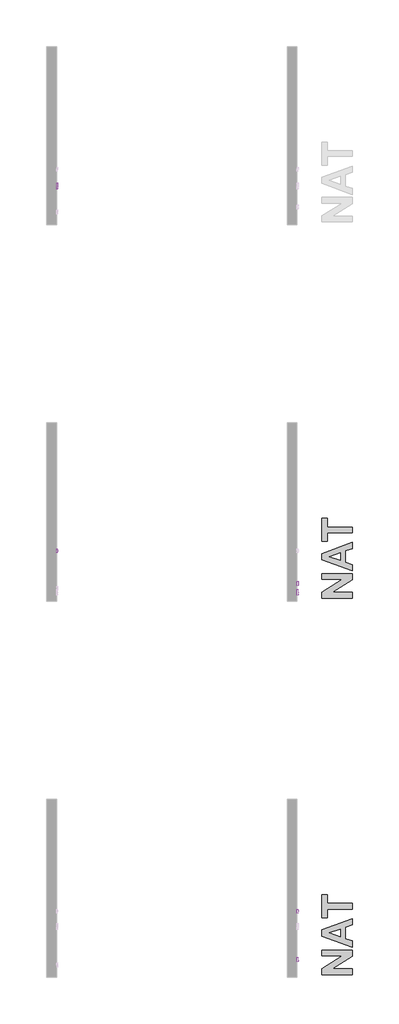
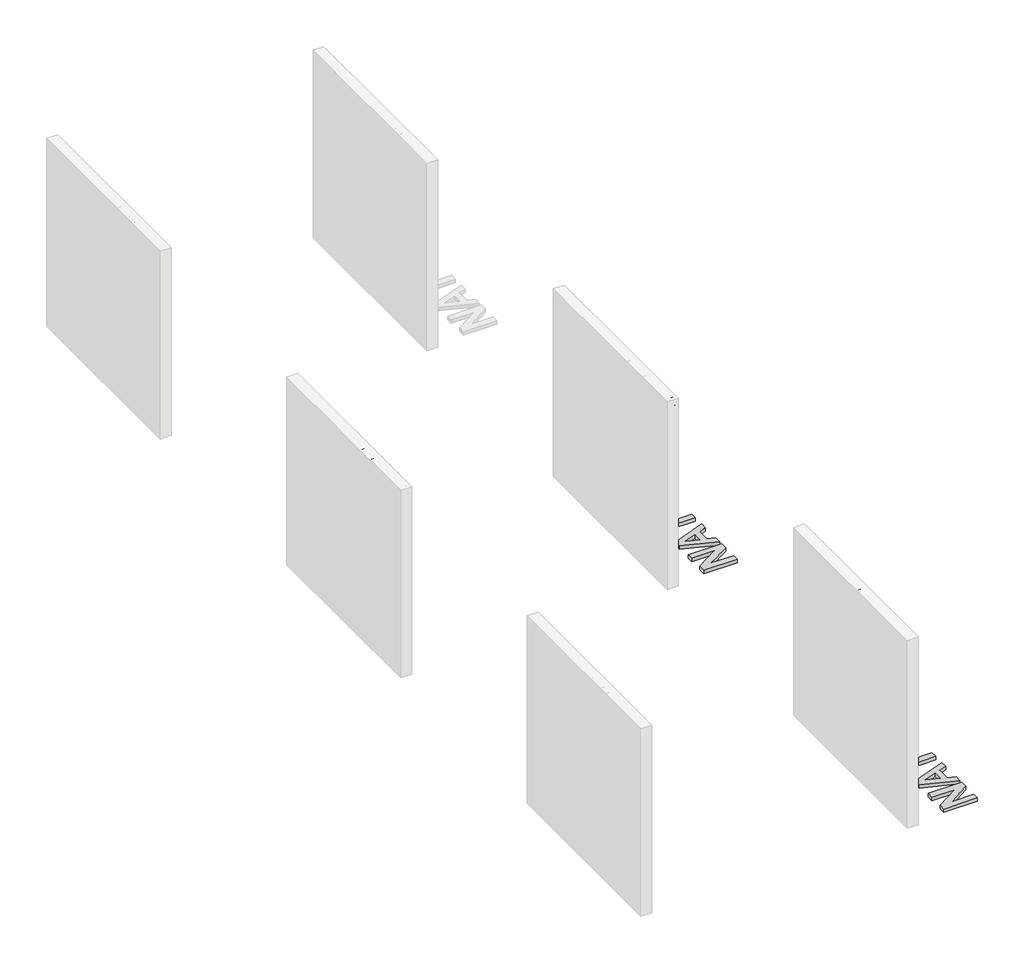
# One storey, part 7 of 9: 8 proxies.
"""IFC4 building model written with IfcOpenShell, lengths in millimetres."""

from ifc_helpers import new_model, si_unit, frame, origin, origin_with_axes, place, context, project, spatial, polyline, outline, extrude, element, save

model = new_model("IFC4")

# Units and contexts
model_context = context("Model", 3, world=origin())
ifc_project = project(units=[si_unit("LENGTHUNIT", "METRE", prefix="MILLI")], contexts=[model_context])

# Site, building, storey
site = spatial("IfcSite", under=ifc_project)
building = spatial("IfcBuilding", under=site)
storey = spatial("IfcBuildingStorey", under=building, Name="PORTOBELLO - SHOWROOM", Elevation=0.0)

# Proxies
placement = place(None, origin())
element("IfcBuildingElementProxy", 1, Name="10mm Arial", ObjectType="10mm Arial", at=placement, inside=storey, context=model_context, shape_type="SweptSolid", body=[
    extrude(outline(polyline([(9524.6681357, 2396.0316064), (9524.6681357, 2383.4745677), (9458.7436821, 2383.4745677), (9460.0925828, 2392.1320573), (9467.7322655, 2405.4616482), (9483.4653522, 2420.0175125), (9505.1336017, 2440.9377353), (9510.5414671, 2455.1625058), (9505.4279073, 2466.6772122), (9492.0737909, 2471.373839), (9478.1555887, 2466.7875768), (9472.8703507, 2454.1079107), (9460.313312, 2455.6775406), (9463.3575355, 2467.8237778), (9469.9395575, 2476.6958652), (9479.7160215, 2482.1221247), (9492.343571, 2483.9308778), (9505.063091, 2481.9197896), (9514.8211609, 2475.8865249), (9521.0291696, 2466.873416), (9523.0985058, 2455.9227952), (9520.8666884, 2444.0156813), (9513.4477348, 2431.7038972), (9495.4583053, 2414.4992826), (9481.0128056, 2402.4204904), (9475.3474228, 2396.0316064), (9524.6681357, 2396.0316064)])), frame((-13466.0063329, 0.0, 0.0), z_axis=(1.0, 0.0, 0.0), x_axis=(0.0, 1.0, 0.0)), (0.0, 0.0, 1.0), 20.0),
    extrude(outline(polyline([(9537.2251744, 2432.8933823), (9540.9162571, 2461.7966444), (9551.8791406, 2478.4616988), (9570.1874012, 2483.9308778), (9584.8536301, 2480.6935163), (9594.9826477, 2471.3615763), (9600.8687596, 2456.4991437), (9603.149628, 2432.8933823), (9599.4953335, 2404.1127476), (9588.5692382, 2387.410905), (9580.3378786, 2383.2814296), (9570.1874012, 2381.9049378), (9557.1398531, 2384.2961708), (9547.2315647, 2391.4698697), (9539.726772, 2408.4598865), (9537.2251744, 2432.8933823)]), holes=[polyline([(9549.7822132, 2432.9179078), (9551.2537412, 2413.1657104), (9555.6683251, 2401.7337774), (9562.2411501, 2396.2799268), (9570.1874012, 2394.4619766), (9578.1336523, 2396.2860581), (9584.7064773, 2401.7583028), (9589.1210612, 2413.1963672), (9590.5925892, 2432.9179078), (9589.1701122, 2452.2255812), (9584.902681, 2463.746419), (9578.3421188, 2469.466984), (9570.0402484, 2471.373839), (9562.1798364, 2469.6938446), (9555.8645289, 2464.6538613), (9551.3027921, 2452.4156536), (9549.7822132, 2432.9179078)])]), frame((-13466.0063329, 0.0, 0.0), z_axis=(1.0, 0.0, 0.0), x_axis=(0.0, 1.0, 0.0)), (0.0, 0.0, 1.0), 20.0),
    extrude(outline(polyline([(9609.4281474, 2383.4745677), (9636.2590075, 2420.5815982), (9610.9977772, 2457.2471704), (9626.0564135, 2457.2471704), (9638.2455703, 2439.5643092), (9643.960004, 2431.2501761), (9648.9141482, 2438.0682557), (9662.7955621, 2457.2471704), (9677.9032494, 2457.2471704), (9651.3666948, 2420.5570728), (9676.9222307, 2383.4745677), (9661.8390689, 2383.4745677), (9646.4370761, 2405.792742), (9643.6411729, 2409.8884949), (9624.5358346, 2383.4745677), (9609.4281474, 2383.4745677)])), frame((-13466.0063329, 0.0, 0.0), z_axis=(1.0, 0.0, 0.0), x_axis=(0.0, 1.0, 0.0)), (0.0, 0.0, 1.0), 20.0),
    extrude(outline(polyline([(9749.1252037, 2396.0316064), (9749.1252037, 2383.4745677), (9683.2007501, 2383.4745677), (9684.5496508, 2392.1320573), (9692.1893335, 2405.4616482), (9707.9224202, 2420.0175125), (9729.5906697, 2440.9377353), (9734.998535, 2455.1625058), (9729.8849753, 2466.6772122), (9716.5308589, 2471.373839), (9702.6126567, 2466.7875768), (9697.3274187, 2454.1079107), (9684.77038, 2455.6775406), (9687.8146035, 2467.8237778), (9694.3966255, 2476.6958652), (9704.1730895, 2482.1221247), (9716.800639, 2483.9308778), (9729.520159, 2481.9197896), (9739.2782289, 2475.8865249), (9745.4862376, 2466.873416), (9747.5555738, 2455.9227952), (9745.3237564, 2444.0156813), (9737.9048028, 2431.7038972), (9719.9153732, 2414.4992826), (9705.4698736, 2402.4204904), (9699.8044908, 2396.0316064), (9749.1252037, 2396.0316064)])), frame((-13466.0063329, 0.0, 0.0), z_axis=(1.0, 0.0, 0.0), x_axis=(0.0, 1.0, 0.0)), (0.0, 0.0, 1.0), 20.0),
    extrude(outline(polyline([(9761.6822424, 2432.8933823), (9765.3733251, 2461.7966444), (9776.3362086, 2478.4616988), (9794.6444692, 2483.9308778), (9809.3106981, 2480.6935163), (9819.4397157, 2471.3615763), (9825.3258276, 2456.4991437), (9827.606696, 2432.8933823), (9823.9524015, 2404.1127476), (9813.0263062, 2387.410905), (9804.7949466, 2383.2814296), (9794.6444692, 2381.9049378), (9781.5969211, 2384.2961708), (9771.6886327, 2391.4698697), (9764.18384, 2408.4598865), (9761.6822424, 2432.8933823)]), holes=[polyline([(9774.2392812, 2432.9179078), (9775.7108092, 2413.1657104), (9780.1253931, 2401.7337774), (9786.6982181, 2396.2799268), (9794.6444692, 2394.4619766), (9802.5907203, 2396.2860581), (9809.1635453, 2401.7583028), (9813.5781292, 2413.1963672), (9815.0496572, 2432.9179078), (9813.6271801, 2452.2255812), (9809.359749, 2463.746419), (9802.7991868, 2469.466984), (9794.4973164, 2471.373839), (9786.6369044, 2469.6938446), (9780.3215968, 2464.6538613), (9775.7598601, 2452.4156536), (9774.2392812, 2432.9179078)])]), frame((-13466.0063329, 0.0, 0.0), z_axis=(1.0, 0.0, 0.0), x_axis=(0.0, 1.0, 0.0)), (0.0, 0.0, 1.0), 20.0),
])
element("IfcBuildingElementProxy", 2, Name="10mm Arial", ObjectType="10mm Arial", at=placement, inside=storey, context=model_context, shape_type="SweptSolid", body=[
    extrude(outline(polyline([(15160.313312, 2567.3783476), (15163.6610381, 2589.5922887), (15173.7042166, 2606.3983645), (15189.0387644, 2616.9749719), (15208.2605987, 2620.5005077), (15221.4369055, 2618.8450387), (15233.2520489, 2613.8786317), (15243.0622354, 2605.9507747), (15250.2236716, 2595.4109556), (15254.6014673, 2582.7680777), (15256.0607326, 2568.5310445), (15254.5248253, 2554.1039389), (15249.9171033, 2541.2832514), (15242.4920183, 2530.7250381), (15232.5040222, 2523.0853553), (15220.7900463, 2518.4500422), (15208.1870223, 2516.9049378), (15194.8083804, 2518.6125234), (15182.9257919, 2523.7352802), (15173.1401309, 2531.81029), (15166.0522711, 2542.3746346), (15160.313312, 2567.3783476)]), holes=[polyline([(15172.8703507, 2567.2557202), (15175.3811454, 2551.5410277), (15182.9135292, 2539.5664687), (15194.2350976, 2531.9880996), (15208.1134459, 2529.4619766), (15222.1941293, 2532.0126251), (15233.5340918, 2539.6645706), (15241.0112933, 2552.0070115), (15243.5036938, 2568.6291463), (15239.2362627, 2589.3531654), (15226.765063, 2603.0751638), (15208.3341751, 2607.9434689), (15194.8267745, 2605.5982212), (15183.3427249, 2598.562478), (15175.4884443, 2586.0452931), (15172.8703507, 2567.2557202)])]), frame((-13466.0063329, 0.0, 0.0), z_axis=(1.0, 0.0, 0.0), x_axis=(0.0, 1.0, 0.0)), (0.0, 0.0, 1.0), 20.0),
    extrude(outline(polyline([(-13446.0063329, 15284.3140698), (-13446.0063329, 15271.7570311), (-13466.0063329, 15271.7570311), (-13466.0063329, 15284.3140698), (-13446.0063329, 15284.3140698)])), frame((0.0, 0.0, 2518.4745677), z_axis=(0.0, 0.0, 1.0), x_axis=(1.0, 0.0, 0.0)), (0.0, 0.0, 1.0), 100.4563101),
    extrude(outline(polyline([(-13446.0063329, 15315.7066667), (-13446.0063329, 15303.149628), (-13466.0063329, 15303.149628), (-13466.0063329, 15315.7066667), (-13446.0063329, 15315.7066667)])), frame((0.0, 0.0, 2518.4745677), z_axis=(0.0, 0.0, 1.0), x_axis=(1.0, 0.0, 0.0)), (0.0, 0.0, 1.0), 73.7726028),
    extrude(outline(polyline([(-13446.0063329, 15315.7066667), (-13446.0063329, 15303.149628), (-13466.0063329, 15303.149628), (-13466.0063329, 15315.7066667), (-13446.0063329, 15315.7066667)])), frame((0.0, 0.0, 2606.373839), z_axis=(0.0, 0.0, 1.0), x_axis=(1.0, 0.0, 0.0)), (0.0, 0.0, 1.0), 12.5570388),
    extrude(outline(polyline([(15352.69107, 2518.4745677), (15326.6940757, 2592.2471704), (15339.962353, 2592.2471704), (15355.7077024, 2548.0522801), (15360.4411174, 2533.1898475), (15365.0764305, 2547.2184142), (15380.8953563, 2592.2471704), (15394.188159, 2592.2471704), (15368.5590467, 2518.4745677), (15352.69107, 2518.4745677)])), frame((-13466.0063329, 0.0, 0.0), z_axis=(1.0, 0.0, 0.0), x_axis=(0.0, 1.0, 0.0)), (0.0, 0.0, 1.0), 20.0),
    extrude(outline(polyline([(15456.8262001, 2540.4493855), (15469.1379842, 2538.8797557), (15464.7019405, 2529.602998), (15457.6232777, 2522.6684224), (15448.0614116, 2518.345809), (15436.1757574, 2516.9049378), (15421.4420835, 2519.391207), (15410.1051867, 2526.8500144), (15402.8763055, 2538.7969822), (15400.4666784, 2554.7477324), (15402.900831, 2571.2349771), (15410.2032886, 2583.5651553), (15421.3869012, 2591.253889), (15435.4645189, 2593.8168003), (15449.1037439, 2591.2600204), (15460.002248, 2583.5896808), (15467.1483557, 2571.2840281), (15469.5303917, 2554.8213088), (15469.4568153, 2551.4367944), (15413.0237172, 2551.4367944), (15415.1972867, 2542.0374095), (15420.246467, 2535.1273593), (15427.5335962, 2530.8783223), (15436.4210121, 2529.4619766), (15448.7327962, 2532.0862015), (15456.8262001, 2540.4493855)]), holes=[polyline([(15413.0237172, 2563.9938332), (15456.9733529, 2563.9938332), (15451.9456323, 2575.3736496), (15444.6247806, 2579.7882335), (15435.415468, 2581.2597615), (15419.9521614, 2576.5631347), (15415.0869221, 2571.0724959), (15413.0237172, 2563.9938332)])]), frame((-13466.0063329, 0.0, 0.0), z_axis=(1.0, 0.0, 0.0), x_axis=(0.0, 1.0, 0.0)), (0.0, 0.0, 1.0), 20.0),
    extrude(outline(polyline([(15522.8978064, 2518.4745677), (15522.8978064, 2618.9308778), (15544.4311659, 2618.9308778), (15565.0325576, 2548.1258565), (15569.2018869, 2533.3370003), (15573.6900472, 2549.3521298), (15593.8990315, 2618.9308778), (15615.5059673, 2618.9308778), (15615.5059673, 2518.4745677), (15602.9489286, 2518.4745677), (15602.9489286, 2606.373839), (15577.7122237, 2518.4745677), (15560.7160755, 2518.4745677), (15535.4548452, 2606.373839), (15535.4548452, 2518.4745677), (15522.8978064, 2518.4745677)])), frame((-13466.0063329, 0.0, 0.0), z_axis=(1.0, 0.0, 0.0), x_axis=(0.0, 1.0, 0.0)), (0.0, 0.0, 1.0), 20.0),
    extrude(outline(polyline([(-13446.0063329, 15648.4681941), (-13446.0063329, 15635.9111553), (-13466.0063329, 15635.9111553), (-13466.0063329, 15648.4681941), (-13446.0063329, 15648.4681941)])), frame((0.0, 0.0, 2518.4745677), z_axis=(0.0, 0.0, 1.0), x_axis=(1.0, 0.0, 0.0)), (0.0, 0.0, 1.0), 73.7726028),
    extrude(outline(polyline([(-13446.0063329, 15648.4681941), (-13446.0063329, 15635.9111553), (-13466.0063329, 15635.9111553), (-13466.0063329, 15648.4681941), (-13446.0063329, 15648.4681941)])), frame((0.0, 0.0, 2606.373839), z_axis=(0.0, 0.0, 1.0), x_axis=(1.0, 0.0, 0.0)), (0.0, 0.0, 1.0), 12.5570388),
    extrude(outline(polyline([(15659.455603, 2518.4745677), (15686.2864632, 2555.5815982), (15661.0252329, 2592.2471704), (15676.0838692, 2592.2471704), (15688.273026, 2574.5643092), (15693.9874596, 2566.2501761), (15698.9416039, 2573.0682557), (15712.8230178, 2592.2471704), (15727.9307051, 2592.2471704), (15701.3941505, 2555.5570728), (15726.9496864, 2518.4745677), (15711.8665246, 2518.4745677), (15696.4645317, 2540.792742), (15693.6686286, 2544.8884949), (15674.5632903, 2518.4745677), (15659.455603, 2518.4745677)])), frame((-13466.0063329, 0.0, 0.0), z_axis=(1.0, 0.0, 0.0), x_axis=(0.0, 1.0, 0.0)), (0.0, 0.0, 1.0), 20.0),
])
element("IfcBuildingElementProxy", 3, Name="10mm Arial", ObjectType="10mm Arial", at=placement, inside=storey, context=model_context, shape_type="SweptSolid", body=[
    extrude(outline(polyline([(15224.6681357, 2396.0316064), (15224.6681357, 2383.4745677), (15158.7436821, 2383.4745677), (15160.0925828, 2392.1320573), (15167.7322655, 2405.4616482), (15183.4653522, 2420.0175125), (15205.1336017, 2440.9377353), (15210.5414671, 2455.1625058), (15205.4279073, 2466.6772122), (15192.0737909, 2471.373839), (15178.1555887, 2466.7875768), (15172.8703507, 2454.1079107), (15160.313312, 2455.6775406), (15163.3575355, 2467.8237778), (15169.9395575, 2476.6958652), (15179.7160215, 2482.1221247), (15192.343571, 2483.9308778), (15205.063091, 2481.9197896), (15214.8211609, 2475.8865249), (15221.0291696, 2466.873416), (15223.0985058, 2455.9227952), (15220.8666884, 2444.0156813), (15213.4477348, 2431.7038972), (15195.4583053, 2414.4992826), (15181.0128056, 2402.4204904), (15175.3474228, 2396.0316064), (15224.6681357, 2396.0316064)])), frame((-13466.0063329, 0.0, 0.0), z_axis=(1.0, 0.0, 0.0), x_axis=(0.0, 1.0, 0.0)), (0.0, 0.0, 1.0), 20.0),
    extrude(outline(polyline([(15237.2251744, 2432.8933823), (15240.9162571, 2461.7966444), (15251.8791406, 2478.4616988), (15270.1874012, 2483.9308778), (15284.8536301, 2480.6935163), (15294.9826477, 2471.3615763), (15300.8687596, 2456.4991437), (15303.149628, 2432.8933823), (15299.4953335, 2404.1127476), (15288.5692382, 2387.410905), (15280.3378786, 2383.2814296), (15270.1874012, 2381.9049378), (15257.1398531, 2384.2961708), (15247.2315647, 2391.4698697), (15239.726772, 2408.4598865), (15237.2251744, 2432.8933823)]), holes=[polyline([(15249.7822132, 2432.9179078), (15251.2537412, 2413.1657104), (15255.6683251, 2401.7337774), (15262.2411501, 2396.2799268), (15270.1874012, 2394.4619766), (15278.1336523, 2396.2860581), (15284.7064773, 2401.7583028), (15289.1210612, 2413.1963672), (15290.5925892, 2432.9179078), (15289.1701122, 2452.2255812), (15284.902681, 2463.746419), (15278.3421188, 2469.466984), (15270.0402484, 2471.373839), (15262.1798364, 2469.6938446), (15255.8645289, 2464.6538613), (15251.3027921, 2452.4156536), (15249.7822132, 2432.9179078)])]), frame((-13466.0063329, 0.0, 0.0), z_axis=(1.0, 0.0, 0.0), x_axis=(0.0, 1.0, 0.0)), (0.0, 0.0, 1.0), 20.0),
    extrude(outline(polyline([(15309.4281474, 2383.4745677), (15336.2590075, 2420.5815982), (15310.9977772, 2457.2471704), (15326.0564135, 2457.2471704), (15338.2455703, 2439.5643092), (15343.960004, 2431.2501761), (15348.9141482, 2438.0682557), (15362.7955621, 2457.2471704), (15377.9032494, 2457.2471704), (15351.3666948, 2420.5570728), (15376.9222307, 2383.4745677), (15361.8390689, 2383.4745677), (15346.4370761, 2405.792742), (15343.6411729, 2409.8884949), (15324.5358346, 2383.4745677), (15309.4281474, 2383.4745677)])), frame((-13466.0063329, 0.0, 0.0), z_axis=(1.0, 0.0, 0.0), x_axis=(0.0, 1.0, 0.0)), (0.0, 0.0, 1.0), 20.0),
    extrude(outline(polyline([(15449.1252037, 2396.0316064), (15449.1252037, 2383.4745677), (15383.2007501, 2383.4745677), (15384.5496508, 2392.1320573), (15392.1893335, 2405.4616482), (15407.9224202, 2420.0175125), (15429.5906697, 2440.9377353), (15434.998535, 2455.1625058), (15429.8849753, 2466.6772122), (15416.5308589, 2471.373839), (15402.6126567, 2466.7875768), (15397.3274187, 2454.1079107), (15384.77038, 2455.6775406), (15387.8146035, 2467.8237778), (15394.3966255, 2476.6958652), (15404.1730895, 2482.1221247), (15416.800639, 2483.9308778), (15429.520159, 2481.9197896), (15439.2782289, 2475.8865249), (15445.4862376, 2466.873416), (15447.5555738, 2455.9227952), (15445.3237564, 2444.0156813), (15437.9048028, 2431.7038972), (15419.9153732, 2414.4992826), (15405.4698736, 2402.4204904), (15399.8044908, 2396.0316064), (15449.1252037, 2396.0316064)])), frame((-13466.0063329, 0.0, 0.0), z_axis=(1.0, 0.0, 0.0), x_axis=(0.0, 1.0, 0.0)), (0.0, 0.0, 1.0), 20.0),
    extrude(outline(polyline([(15461.6822424, 2432.8933823), (15465.3733251, 2461.7966444), (15476.3362086, 2478.4616988), (15494.6444692, 2483.9308778), (15509.3106981, 2480.6935163), (15519.4397157, 2471.3615763), (15525.3258276, 2456.4991437), (15527.606696, 2432.8933823), (15523.9524015, 2404.1127476), (15513.0263062, 2387.410905), (15504.7949466, 2383.2814296), (15494.6444692, 2381.9049378), (15481.5969211, 2384.2961708), (15471.6886327, 2391.4698697), (15464.18384, 2408.4598865), (15461.6822424, 2432.8933823)]), holes=[polyline([(15474.2392812, 2432.9179078), (15475.7108092, 2413.1657104), (15480.1253931, 2401.7337774), (15486.6982181, 2396.2799268), (15494.6444692, 2394.4619766), (15502.5907203, 2396.2860581), (15509.1635453, 2401.7583028), (15513.5781292, 2413.1963672), (15515.0496572, 2432.9179078), (15513.6271801, 2452.2255812), (15509.359749, 2463.746419), (15502.7991868, 2469.466984), (15494.4973164, 2471.373839), (15486.6369044, 2469.6938446), (15480.3215968, 2464.6538613), (15475.7598601, 2452.4156536), (15474.2392812, 2432.9179078)])]), frame((-13466.0063329, 0.0, 0.0), z_axis=(1.0, 0.0, 0.0), x_axis=(0.0, 1.0, 0.0)), (0.0, 0.0, 1.0), 20.0),
])
element("IfcBuildingElementProxy", 4, Name="10mm Arial", ObjectType="10mm Arial", at=placement, inside=storey, context=model_context, shape_type="SweptSolid", body=[
    extrude(outline(polyline([(20935.6555446, 2554.1836467), (20948.2125834, 2550.9462851), (20942.4184419, 2536.3137787), (20933.3256253, 2525.6237411), (20921.3817232, 2519.0846386), (20907.0343254, 2516.9049378), (20892.469264, 2518.5542754), (20880.902441, 2523.5022883), (20872.0364849, 2531.5772981), (20865.5740245, 2542.6076265), (20860.313312, 2569.4630122), (20861.8001684, 2584.110847), (20866.2607376, 2596.7598562), (20873.4620276, 2607.0084355), (20883.1710466, 2614.4549802), (20894.6857531, 2618.9891258), (20907.3041055, 2620.5005077), (20921.0720892, 2618.5446017), (20932.4549712, 2612.6768839), (20941.0971324, 2603.2591048), (20946.6429535, 2590.6530151), (20934.0859147, 2587.6609082), (20923.7852189, 2603.0996893), (20906.8135962, 2607.9434689), (20887.1686976, 2602.5723918), (20876.0709241, 2588.1514175), (20872.8703507, 2569.4875377), (20876.6595353, 2547.8560763), (20888.4562846, 2534.0359761), (20905.7835266, 2529.4619766), (20916.2650978, 2531.0193437), (20924.9992295, 2535.691445), (20931.5935142, 2543.4292297), (20935.6555446, 2554.1836467)])), frame((-17115.5080774, 0.0, 0.0), z_axis=(1.0, 0.0, 0.0), x_axis=(0.0, 1.0, 0.0)), (0.0, 0.0, 1.0), 20.0),
    extrude(outline(polyline([(20960.7696221, 2555.360869), (20963.4858175, 2573.1479635), (20971.6344037, 2585.64982), (20981.7021077, 2591.7750552), (20993.7563744, 2593.8168003), (21006.9480096, 2591.3305311), (21017.4847631, 2583.8717237), (21024.3917475, 2572.0289891), (21026.6940757, 2556.3909386), (21022.6228483, 2534.0482388), (21010.7647853, 2521.4053609), (20993.7563744, 2516.9049378), (20980.4053236, 2519.3820099), (20969.8808329, 2526.8132262), (20963.0474248, 2538.9042811), (20960.7696221, 2555.360869)]), holes=[polyline([(20973.3266609, 2555.3853945), (20974.7797948, 2544.0209065), (20979.1391964, 2535.924437), (20985.6997587, 2531.0775917), (20993.7563744, 2529.4619766), (21001.7762019, 2531.0867887), (21008.3245014, 2535.9612252), (21012.683903, 2544.1649937), (21014.1370369, 2555.777802), (21012.674706, 2566.8111961), (21008.2877132, 2574.7973011), (21001.7302166, 2579.6441464), (20993.7563744, 2581.2597615), (20985.6997587, 2579.6502778), (20979.1391964, 2574.8218266), (20974.7797948, 2566.7437511), (20973.3266609, 2555.3853945)])]), frame((-17115.5080774, 0.0, 0.0), z_axis=(1.0, 0.0, 0.0), x_axis=(0.0, 1.0, 0.0)), (0.0, 0.0, 1.0), 20.0),
    extrude(outline(polyline([(21084.77038, 2518.4745677), (21084.77038, 2579.6901317), (21073.782971, 2579.6901317), (21073.782971, 2592.2471704), (21084.77038, 2592.2471704), (21084.77038, 2599.6783867), (21086.0947552, 2610.1507609), (21092.5204273, 2617.6310281), (21105.175568, 2620.5005077), (21116.6289608, 2619.1270815), (21114.7895508, 2607.3548577), (21107.5545382, 2607.9434689), (21099.6450753, 2605.8588043), (21097.3274187, 2598.0842314), (21097.3274187, 2592.2471704), (21111.4540874, 2592.2471704), (21111.4540874, 2579.6901317), (21097.3274187, 2579.6901317), (21097.3274187, 2518.4745677), (21084.77038, 2518.4745677)])), frame((-17115.5080774, 0.0, 0.0), z_axis=(1.0, 0.0, 0.0), x_axis=(0.0, 1.0, 0.0)), (0.0, 0.0, 1.0), 20.0),
    extrude(outline(polyline([(21043.960004, 2518.4745677), (21043.960004, 2579.6901317), (21032.972595, 2579.6901317), (21032.972595, 2592.2471704), (21043.960004, 2592.2471704), (21043.960004, 2599.6783867), (21045.2843792, 2610.1507609), (21051.7100513, 2617.6310281), (21064.365192, 2620.5005077), (21075.8185848, 2619.1270815), (21073.9791748, 2607.3548577), (21066.7441622, 2607.9434689), (21058.8346993, 2605.8588043), (21056.5170427, 2598.0842314), (21056.5170427, 2592.2471704), (21070.6437114, 2592.2471704), (21070.6437114, 2579.6901317), (21056.5170427, 2579.6901317), (21056.5170427, 2518.4745677), (21043.960004, 2518.4745677)])), frame((-17115.5080774, 0.0, 0.0), z_axis=(1.0, 0.0, 0.0), x_axis=(0.0, 1.0, 0.0)), (0.0, 0.0, 1.0), 20.0),
    extrude(outline(polyline([(21174.0921284, 2540.4493855), (21186.4039125, 2538.8797557), (21181.9678688, 2529.602998), (21174.8892061, 2522.6684224), (21165.3273399, 2518.345809), (21153.4416857, 2516.9049378), (21138.7080118, 2519.391207), (21127.371115, 2526.8500144), (21120.1422338, 2538.7969822), (21117.7326067, 2554.7477324), (21120.1667593, 2571.2349771), (21127.4692169, 2583.5651553), (21138.6528295, 2591.253889), (21152.7304472, 2593.8168003), (21166.3696722, 2591.2600204), (21177.2681763, 2583.5896808), (21184.414284, 2571.2840281), (21186.79632, 2554.8213088), (21186.7227436, 2551.4367944), (21130.2896455, 2551.4367944), (21132.463215, 2542.0374095), (21137.5123953, 2535.1273593), (21144.7995245, 2530.8783223), (21153.6869404, 2529.4619766), (21165.9987245, 2532.0862015), (21174.0921284, 2540.4493855)]), holes=[polyline([(21130.2896455, 2563.9938332), (21174.2392812, 2563.9938332), (21169.2115606, 2575.3736496), (21161.8907089, 2579.7882335), (21152.6813963, 2581.2597615), (21137.2180897, 2576.5631347), (21132.3528504, 2571.0724959), (21130.2896455, 2563.9938332)])]), frame((-17115.5080774, 0.0, 0.0), z_axis=(1.0, 0.0, 0.0), x_axis=(0.0, 1.0, 0.0)), (0.0, 0.0, 1.0), 20.0),
    extrude(outline(polyline([(21251.0039909, 2540.4493855), (21263.315775, 2538.8797557), (21258.8797312, 2529.602998), (21251.8010685, 2522.6684224), (21242.2392023, 2518.345809), (21230.3535482, 2516.9049378), (21215.6198743, 2519.391207), (21204.2829775, 2526.8500144), (21197.0540963, 2538.7969822), (21194.6444692, 2554.7477324), (21197.0786217, 2571.2349771), (21204.3810793, 2583.5651553), (21215.564692, 2591.253889), (21229.6423097, 2593.8168003), (21243.2815346, 2591.2600204), (21254.1800387, 2583.5896808), (21261.3261465, 2571.2840281), (21263.7081824, 2554.8213088), (21263.634606, 2551.4367944), (21207.201508, 2551.4367944), (21209.3750774, 2542.0374095), (21214.4242578, 2535.1273593), (21221.711387, 2530.8783223), (21230.5988029, 2529.4619766), (21242.910587, 2532.0862015), (21251.0039909, 2540.4493855)]), holes=[polyline([(21207.201508, 2563.9938332), (21251.1511437, 2563.9938332), (21246.1234231, 2575.3736496), (21238.8025713, 2579.7882335), (21229.5932587, 2581.2597615), (21214.1299522, 2576.5631347), (21209.2647128, 2571.0724959), (21207.201508, 2563.9938332)])]), frame((-17115.5080774, 0.0, 0.0), z_axis=(1.0, 0.0, 0.0), x_axis=(0.0, 1.0, 0.0)), (0.0, 0.0, 1.0), 20.0),
    extrude(outline(polyline([(21317.0755972, 2518.4745677), (21317.0755972, 2618.9308778), (21338.6089566, 2618.9308778), (21359.2103484, 2548.1258565), (21363.3796776, 2533.3370003), (21367.867838, 2549.3521298), (21388.0768223, 2618.9308778), (21409.6837581, 2618.9308778), (21409.6837581, 2518.4745677), (21397.1267193, 2518.4745677), (21397.1267193, 2606.373839), (21371.8900145, 2518.4745677), (21354.8938663, 2518.4745677), (21329.632636, 2606.373839), (21329.632636, 2518.4745677), (21317.0755972, 2518.4745677)])), frame((-17115.5080774, 0.0, 0.0), z_axis=(1.0, 0.0, 0.0), x_axis=(0.0, 1.0, 0.0)), (0.0, 0.0, 1.0), 20.0),
    extrude(outline(polyline([(-17095.5080774, 21442.6459849), (-17095.5080774, 21430.0889461), (-17115.5080774, 21430.0889461), (-17115.5080774, 21442.6459849), (-17095.5080774, 21442.6459849)])), frame((0.0, 0.0, 2606.373839), z_axis=(0.0, 0.0, 1.0), x_axis=(1.0, 0.0, 0.0)), (0.0, 0.0, 1.0), 12.5570388),
    extrude(outline(polyline([(-17095.5080774, 21442.6459849), (-17095.5080774, 21430.0889461), (-17115.5080774, 21430.0889461), (-17115.5080774, 21442.6459849), (-17095.5080774, 21442.6459849)])), frame((0.0, 0.0, 2518.4745677), z_axis=(0.0, 0.0, 1.0), x_axis=(1.0, 0.0, 0.0)), (0.0, 0.0, 1.0), 73.7726028),
    extrude(outline(polyline([(21453.6333938, 2518.4745677), (21480.464254, 2555.5815982), (21455.2030236, 2592.2471704), (21470.26166, 2592.2471704), (21482.4508168, 2574.5643092), (21488.1652504, 2566.2501761), (21493.1193946, 2573.0682557), (21507.0008086, 2592.2471704), (21522.1084958, 2592.2471704), (21495.5719412, 2555.5570728), (21521.1274772, 2518.4745677), (21506.0443154, 2518.4745677), (21490.6423225, 2540.792742), (21487.8464194, 2544.8884949), (21468.7410811, 2518.4745677), (21453.6333938, 2518.4745677)])), frame((-17115.5080774, 0.0, 0.0), z_axis=(1.0, 0.0, 0.0), x_axis=(0.0, 1.0, 0.0)), (0.0, 0.0, 1.0), 20.0),
])
element("IfcBuildingElementProxy", 5, Name="10mm Arial Narrow", ObjectType="10mm Arial Narrow", at=placement, inside=storey, context=model_context, shape_type="SweptSolid", body=[
    extrude(outline(polyline([(10346.9277964, 2518.4745677), (10346.9277964, 2615.7916181), (10377.1676964, 2615.7916181), (10392.9130458, 2613.9767336), (10403.9985566, 2604.8164719), (10408.1433604, 2588.3721467), (10406.4173807, 2576.7041561), (10401.2394416, 2567.402873), (10391.8247282, 2561.314426), (10377.3884256, 2559.2849437), (10356.3455754, 2559.2849437), (10356.3455754, 2518.4745677), (10346.9277964, 2518.4745677)]), holes=[polyline([(10356.3455754, 2570.2723526), (10378.5411225, 2570.2723526), (10393.869539, 2574.6501483), (10398.7255813, 2587.857112), (10396.3343483, 2597.6795612), (10390.558601, 2603.2836303), (10378.3203933, 2604.8042092), (10356.3455754, 2604.8042092), (10356.3455754, 2570.2723526)])]), frame((-13466.0063329, 0.0, 0.0), z_axis=(1.0, 0.0, 0.0), x_axis=(0.0, 1.0, 0.0)), (0.0, 0.0, 1.0), 20.0),
    extrude(outline(polyline([(10415.9915096, 2553.7912392), (10417.8799705, 2569.8216971), (10423.5453532, 2581.3701261), (10432.104741, 2588.350687), (10442.675217, 2590.6775406), (10453.1230656, 2588.350687), (10461.7069789, 2581.3701261), (10467.445938, 2570.0056381), (10469.3589244, 2554.5270032), (10467.4796605, 2537.9447223), (10461.8418689, 2526.2123523), (10453.2916782, 2519.2317914), (10442.675217, 2516.9049378), (10432.1813831, 2519.2379228), (10423.6066669, 2526.2368778), (10417.8952989, 2537.7914381), (10415.9915096, 2553.7912392)]), holes=[polyline([(10425.4092887, 2553.8157647), (10426.6692845, 2541.6879216), (10430.449272, 2533.1162711), (10436.093195, 2528.0211054), (10442.9449971, 2526.3227169), (10449.4381143, 2528.0364339), (10454.9379502, 2533.1775847), (10458.6903465, 2541.7645636), (10459.9411453, 2553.8157647), (10458.6811495, 2565.9068196), (10454.901162, 2574.4662073), (10449.257239, 2579.561373), (10442.4054369, 2581.2597615), (10435.8663344, 2579.5521759), (10430.3756956, 2574.4294191), (10426.6508904, 2565.8608343), (10425.4092887, 2553.8157647)])]), frame((-13466.0063329, 0.0, 0.0), z_axis=(1.0, 0.0, 0.0), x_axis=(0.0, 1.0, 0.0)), (0.0, 0.0, 1.0), 20.0),
    extrude(outline(polyline([(10538.4226376, 2526.3227169), (10539.9922674, 2516.9049378), (10532.8798822, 2516.9049378), (10524.8845802, 2518.9528143), (10520.7152509, 2524.5568833), (10519.5870794, 2538.7080774), (10519.5870794, 2579.6901317), (10511.7389302, 2579.6901317), (10511.7389302, 2582.8293914), (10510.1693004, 2578.1205018), (10502.8607114, 2579.6901317), (10496.9868622, 2577.4460515), (10493.2467286, 2571.1797948), (10491.3337422, 2556.2928368), (10491.3337422, 2518.4745677), (10481.9159631, 2518.4745677), (10481.9159631, 2589.1079107), (10491.3337422, 2589.1079107), (10491.3337422, 2579.7391826), (10497.3670069, 2588.5192995), (10503.5474244, 2590.6775406), (10511.7389302, 2589.1079107), (10519.5870794, 2589.1079107), (10519.5870794, 2604.8042092), (10529.0048585, 2612.6523584), (10529.0048585, 2589.1079107), (10538.4226376, 2589.1079107), (10538.4226376, 2579.6901317), (10529.0048585, 2579.6901317), (10529.0048585, 2536.5498364), (10529.8387244, 2528.8243145), (10534.3023592, 2526.3227169), (10538.4226376, 2526.3227169)])), frame((-13466.0063329, 0.0, 0.0), z_axis=(1.0, 0.0, 0.0), x_axis=(0.0, 1.0, 0.0)), (0.0, 0.0, 1.0), 20.0),
    extrude(outline(polyline([(10544.701157, 2553.7912392), (10546.5896179, 2569.8216971), (10552.2550006, 2581.3701261), (10560.8143884, 2588.350687), (10571.3848644, 2590.6775406), (10581.832713, 2588.350687), (10590.4166262, 2581.3701261), (10596.1555854, 2570.0056381), (10598.0685717, 2554.5270032), (10596.1893079, 2537.9447223), (10590.5515163, 2526.2123523), (10582.0013256, 2519.2317914), (10571.3848644, 2516.9049378), (10560.8910304, 2519.2379228), (10552.3163143, 2526.2368778), (10546.6049463, 2537.7914381), (10544.701157, 2553.7912392)]), holes=[polyline([(10554.1189361, 2553.8157647), (10555.3789319, 2541.6879216), (10559.1589194, 2533.1162711), (10564.8028423, 2528.0211054), (10571.6546445, 2526.3227169), (10578.1477617, 2528.0364339), (10583.6475975, 2533.1775847), (10587.3999939, 2541.7645636), (10588.6507927, 2553.8157647), (10587.3907968, 2565.9068196), (10583.6108093, 2574.4662073), (10577.9668864, 2579.561373), (10571.1150842, 2581.2597615), (10564.5759818, 2579.5521759), (10559.085343, 2574.4294191), (10555.3605378, 2565.8608343), (10554.1189361, 2553.8157647)])]), frame((-13466.0063329, 0.0, 0.0), z_axis=(1.0, 0.0, 0.0), x_axis=(0.0, 1.0, 0.0)), (0.0, 0.0, 1.0), 20.0),
    extrude(outline(polyline([(10620.0433896, 2518.4745677), (10610.6256105, 2518.4745677), (10610.6256105, 2615.7916181), (10620.0433896, 2615.7916181), (10620.0433896, 2581.5785926), (10627.192563, 2588.4211977), (10636.0830446, 2590.6775406), (10648.5297187, 2586.6185759), (10657.4937767, 2574.3190545), (10660.8537656, 2554.3307995), (10658.9867645, 2538.4321659), (10653.3857611, 2526.641548), (10645.2954229, 2519.3390904), (10635.9604172, 2516.9049378), (10626.9350456, 2519.4310609), (10620.0433896, 2526.9358536), (10620.0433896, 2518.4745677)]), holes=[polyline([(10620.0433896, 2554.3307995), (10622.0544778, 2537.6657451), (10627.744386, 2529.2289847), (10635.9113663, 2526.3227169), (10641.6533911, 2528.0517623), (10646.7148342, 2533.2388984), (10651.4359865, 2553.938392), (10646.8865125, 2574.6501483), (10641.818938, 2579.6073582), (10635.7151626, 2581.2597615), (10629.9394153, 2579.5307161), (10624.8258555, 2574.34358), (10620.0433896, 2554.3307995)])]), frame((-13466.0063329, 0.0, 0.0), z_axis=(1.0, 0.0, 0.0), x_axis=(0.0, 1.0, 0.0)), (0.0, 0.0, 1.0), 20.0),
    extrude(outline(polyline([(10711.0819207, 2540.4493855), (10720.4996997, 2538.8797557), (10711.3026499, 2522.4476932), (10694.8215365, 2516.9049378), (10683.6195297, 2519.2379228), (10674.7842305, 2526.2368778), (10669.0452713, 2537.6442853), (10667.132285, 2553.202628), (10669.0544684, 2569.3066623), (10674.8210187, 2581.0758205), (10683.5306249, 2588.2771106), (10694.2819762, 2590.6775406), (10704.6041319, 2588.359884), (10713.0562207, 2581.4069143), (10718.6940123, 2570.0638861), (10720.5732761, 2554.5760541), (10720.4996997, 2551.4367944), (10676.550064, 2551.4367944), (10682.3503368, 2532.6502872), (10688.0800989, 2527.9046095), (10694.9441638, 2526.3227169), (10704.7788758, 2529.854384), (10711.0819207, 2540.4493855)]), holes=[polyline([(10677.1877262, 2560.8545735), (10711.0819207, 2560.8545735), (10706.9616423, 2574.6378856), (10701.3330478, 2579.6042925), (10694.3555526, 2581.2597615), (10682.5588033, 2575.7415316), (10677.1877262, 2560.8545735)])]), frame((-13466.0063329, 0.0, 0.0), z_axis=(1.0, 0.0, 0.0), x_axis=(0.0, 1.0, 0.0)), (0.0, 0.0, 1.0), 20.0),
    extrude(outline(polyline([(-13446.0063329, 10742.4745176), (-13446.0063329, 10733.0567385), (-13466.0063329, 10733.0567385), (-13466.0063329, 10742.4745176), (-13446.0063329, 10742.4745176)])), frame((0.0, 0.0, 2518.4745677), z_axis=(0.0, 0.0, 1.0), x_axis=(1.0, 0.0, 0.0)), (0.0, 0.0, 1.0), 97.3170505),
    extrude(outline(polyline([(-13446.0063329, 10767.5885951), (-13446.0063329, 10758.170816), (-13466.0063329, 10758.170816), (-13466.0063329, 10767.5885951), (-13446.0063329, 10767.5885951)])), frame((0.0, 0.0, 2518.4745677), z_axis=(0.0, 0.0, 1.0), x_axis=(1.0, 0.0, 0.0)), (0.0, 0.0, 1.0), 97.3170505),
    extrude(outline(polyline([(10778.576004, 2553.7912392), (10780.464465, 2569.8216971), (10786.1298477, 2581.3701261), (10794.6892354, 2588.350687), (10805.2597114, 2590.6775406), (10815.7075601, 2588.350687), (10824.2914733, 2581.3701261), (10830.0304324, 2570.0056381), (10831.9434188, 2554.5270032), (10830.064155, 2537.9447223), (10824.4263634, 2526.2123523), (10815.8761727, 2519.2317914), (10805.2597114, 2516.9049378), (10794.7658775, 2519.2379228), (10786.1911613, 2526.2368778), (10780.4797934, 2537.7914381), (10778.576004, 2553.7912392)]), holes=[polyline([(10787.9937831, 2553.8157647), (10789.253779, 2541.6879216), (10793.0337665, 2533.1162711), (10798.6776894, 2528.0211054), (10805.5294916, 2526.3227169), (10812.0226088, 2528.0364339), (10817.5224446, 2533.1775847), (10821.274841, 2541.7645636), (10822.5256397, 2553.8157647), (10821.2656439, 2565.9068196), (10817.4856564, 2574.4662073), (10811.8417335, 2579.561373), (10804.9899313, 2581.2597615), (10798.4508288, 2579.5521759), (10792.9601901, 2574.4294191), (10789.2353849, 2565.8608343), (10787.9937831, 2553.8157647)])]), frame((-13466.0063329, 0.0, 0.0), z_axis=(1.0, 0.0, 0.0), x_axis=(0.0, 1.0, 0.0)), (0.0, 0.0, 1.0), 20.0),
])
element("IfcBuildingElementProxy", 6, Name="10mm Arial Narrow", ObjectType="10mm Arial Narrow", at=placement, inside=storey, context=model_context, shape_type="SweptSolid", body=[
    extrude(outline(polyline([(15806.9277964, 2518.4745677), (15806.9277964, 2615.7916181), (15837.1676964, 2615.7916181), (15852.9130458, 2613.9767336), (15863.9985566, 2604.8164719), (15868.1433604, 2588.3721467), (15866.4173807, 2576.7041561), (15861.2394416, 2567.402873), (15851.8247282, 2561.314426), (15837.3884256, 2559.2849437), (15816.3455754, 2559.2849437), (15816.3455754, 2518.4745677), (15806.9277964, 2518.4745677)]), holes=[polyline([(15816.3455754, 2570.2723526), (15838.5411225, 2570.2723526), (15853.869539, 2574.6501483), (15858.7255813, 2587.857112), (15856.3343483, 2597.6795612), (15850.558601, 2603.2836303), (15838.3203933, 2604.8042092), (15816.3455754, 2604.8042092), (15816.3455754, 2570.2723526)])]), frame((-17115.5080774, 0.0, 0.0), z_axis=(1.0, 0.0, 0.0), x_axis=(0.0, 1.0, 0.0)), (0.0, 0.0, 1.0), 20.0),
    extrude(outline(polyline([(15875.9915096, 2553.7912392), (15877.8799705, 2569.8216971), (15883.5453532, 2581.3701261), (15892.104741, 2588.350687), (15902.675217, 2590.6775406), (15913.1230656, 2588.350687), (15921.7069789, 2581.3701261), (15927.445938, 2570.0056381), (15929.3589244, 2554.5270032), (15927.4796605, 2537.9447223), (15921.8418689, 2526.2123523), (15913.2916782, 2519.2317914), (15902.675217, 2516.9049378), (15892.1813831, 2519.2379228), (15883.6066669, 2526.2368778), (15877.8952989, 2537.7914381), (15875.9915096, 2553.7912392)]), holes=[polyline([(15885.4092887, 2553.8157647), (15886.6692845, 2541.6879216), (15890.449272, 2533.1162711), (15896.093195, 2528.0211054), (15902.9449971, 2526.3227169), (15909.4381143, 2528.0364339), (15914.9379502, 2533.1775847), (15918.6903465, 2541.7645636), (15919.9411453, 2553.8157647), (15918.6811495, 2565.9068196), (15914.901162, 2574.4662073), (15909.257239, 2579.561373), (15902.4054369, 2581.2597615), (15895.8663344, 2579.5521759), (15890.3756956, 2574.4294191), (15886.6508904, 2565.8608343), (15885.4092887, 2553.8157647)])]), frame((-17115.5080774, 0.0, 0.0), z_axis=(1.0, 0.0, 0.0), x_axis=(0.0, 1.0, 0.0)), (0.0, 0.0, 1.0), 20.0),
    extrude(outline(polyline([(15998.4226376, 2526.3227169), (15999.9922674, 2516.9049378), (15992.8798822, 2516.9049378), (15984.8845802, 2518.9528143), (15980.7152509, 2524.5568833), (15979.5870794, 2538.7080774), (15979.5870794, 2579.6901317), (15971.7389302, 2579.6901317), (15971.7389302, 2582.8293914), (15970.1693004, 2578.1205018), (15962.8607114, 2579.6901317), (15956.9868622, 2577.4460515), (15953.2467286, 2571.1797948), (15951.3337422, 2556.2928368), (15951.3337422, 2518.4745677), (15941.9159631, 2518.4745677), (15941.9159631, 2589.1079107), (15951.3337422, 2589.1079107), (15951.3337422, 2579.7391826), (15957.3670069, 2588.5192995), (15963.5474244, 2590.6775406), (15971.7389302, 2589.1079107), (15979.5870794, 2589.1079107), (15979.5870794, 2604.8042092), (15989.0048585, 2612.6523584), (15989.0048585, 2589.1079107), (15998.4226376, 2589.1079107), (15998.4226376, 2579.6901317), (15989.0048585, 2579.6901317), (15989.0048585, 2536.5498364), (15989.8387244, 2528.8243145), (15994.3023592, 2526.3227169), (15998.4226376, 2526.3227169)])), frame((-17115.5080774, 0.0, 0.0), z_axis=(1.0, 0.0, 0.0), x_axis=(0.0, 1.0, 0.0)), (0.0, 0.0, 1.0), 20.0),
    extrude(outline(polyline([(16004.701157, 2553.7912392), (16006.5896179, 2569.8216971), (16012.2550006, 2581.3701261), (16020.8143884, 2588.350687), (16031.3848644, 2590.6775406), (16041.832713, 2588.350687), (16050.4166262, 2581.3701261), (16056.1555854, 2570.0056381), (16058.0685717, 2554.5270032), (16056.1893079, 2537.9447223), (16050.5515163, 2526.2123523), (16042.0013256, 2519.2317914), (16031.3848644, 2516.9049378), (16020.8910304, 2519.2379228), (16012.3163143, 2526.2368778), (16006.6049463, 2537.7914381), (16004.701157, 2553.7912392)]), holes=[polyline([(16014.1189361, 2553.8157647), (16015.3789319, 2541.6879216), (16019.1589194, 2533.1162711), (16024.8028423, 2528.0211054), (16031.6546445, 2526.3227169), (16038.1477617, 2528.0364339), (16043.6475975, 2533.1775847), (16047.3999939, 2541.7645636), (16048.6507927, 2553.8157647), (16047.3907968, 2565.9068196), (16043.6108093, 2574.4662073), (16037.9668864, 2579.561373), (16031.1150842, 2581.2597615), (16024.5759818, 2579.5521759), (16019.085343, 2574.4294191), (16015.3605378, 2565.8608343), (16014.1189361, 2553.8157647)])]), frame((-17115.5080774, 0.0, 0.0), z_axis=(1.0, 0.0, 0.0), x_axis=(0.0, 1.0, 0.0)), (0.0, 0.0, 1.0), 20.0),
    extrude(outline(polyline([(16080.0433896, 2518.4745677), (16070.6256105, 2518.4745677), (16070.6256105, 2615.7916181), (16080.0433896, 2615.7916181), (16080.0433896, 2581.5785926), (16087.192563, 2588.4211977), (16096.0830446, 2590.6775406), (16108.5297187, 2586.6185759), (16117.4937767, 2574.3190545), (16120.8537656, 2554.3307995), (16118.9867645, 2538.4321659), (16113.3857611, 2526.641548), (16105.2954229, 2519.3390904), (16095.9604172, 2516.9049378), (16086.9350456, 2519.4310609), (16080.0433896, 2526.9358536), (16080.0433896, 2518.4745677)]), holes=[polyline([(16080.0433896, 2554.3307995), (16082.0544778, 2537.6657451), (16087.744386, 2529.2289847), (16095.9113663, 2526.3227169), (16101.6533911, 2528.0517623), (16106.7148342, 2533.2388984), (16111.4359865, 2553.938392), (16106.8865125, 2574.6501483), (16101.818938, 2579.6073582), (16095.7151626, 2581.2597615), (16089.9394153, 2579.5307161), (16084.8258555, 2574.34358), (16080.0433896, 2554.3307995)])]), frame((-17115.5080774, 0.0, 0.0), z_axis=(1.0, 0.0, 0.0), x_axis=(0.0, 1.0, 0.0)), (0.0, 0.0, 1.0), 20.0),
    extrude(outline(polyline([(16171.0819207, 2540.4493855), (16180.4996997, 2538.8797557), (16171.3026499, 2522.4476932), (16154.8215365, 2516.9049378), (16143.6195297, 2519.2379228), (16134.7842305, 2526.2368778), (16129.0452713, 2537.6442853), (16127.132285, 2553.202628), (16129.0544684, 2569.3066623), (16134.8210187, 2581.0758205), (16143.5306249, 2588.2771106), (16154.2819762, 2590.6775406), (16164.6041319, 2588.359884), (16173.0562207, 2581.4069143), (16178.6940123, 2570.0638861), (16180.5732761, 2554.5760541), (16180.4996997, 2551.4367944), (16136.550064, 2551.4367944), (16142.3503368, 2532.6502872), (16148.0800989, 2527.9046095), (16154.9441638, 2526.3227169), (16164.7788758, 2529.854384), (16171.0819207, 2540.4493855)]), holes=[polyline([(16137.1877262, 2560.8545735), (16171.0819207, 2560.8545735), (16166.9616423, 2574.6378856), (16161.3330478, 2579.6042925), (16154.3555526, 2581.2597615), (16142.5588033, 2575.7415316), (16137.1877262, 2560.8545735)])]), frame((-17115.5080774, 0.0, 0.0), z_axis=(1.0, 0.0, 0.0), x_axis=(0.0, 1.0, 0.0)), (0.0, 0.0, 1.0), 20.0),
    extrude(outline(polyline([(-17095.5080774, 16202.4745176), (-17095.5080774, 16193.0567385), (-17115.5080774, 16193.0567385), (-17115.5080774, 16202.4745176), (-17095.5080774, 16202.4745176)])), frame((0.0, 0.0, 2518.4745677), z_axis=(0.0, 0.0, 1.0), x_axis=(1.0, 0.0, 0.0)), (0.0, 0.0, 1.0), 97.3170505),
    extrude(outline(polyline([(-17095.5080774, 16227.5885951), (-17095.5080774, 16218.170816), (-17115.5080774, 16218.170816), (-17115.5080774, 16227.5885951), (-17095.5080774, 16227.5885951)])), frame((0.0, 0.0, 2518.4745677), z_axis=(0.0, 0.0, 1.0), x_axis=(1.0, 0.0, 0.0)), (0.0, 0.0, 1.0), 97.3170505),
    extrude(outline(polyline([(16238.576004, 2553.7912392), (16240.464465, 2569.8216971), (16246.1298477, 2581.3701261), (16254.6892354, 2588.350687), (16265.2597114, 2590.6775406), (16275.7075601, 2588.350687), (16284.2914733, 2581.3701261), (16290.0304324, 2570.0056381), (16291.9434188, 2554.5270032), (16290.064155, 2537.9447223), (16284.4263634, 2526.2123523), (16275.8761727, 2519.2317914), (16265.2597114, 2516.9049378), (16254.7658775, 2519.2379228), (16246.1911613, 2526.2368778), (16240.4797934, 2537.7914381), (16238.576004, 2553.7912392)]), holes=[polyline([(16247.9937831, 2553.8157647), (16249.253779, 2541.6879216), (16253.0337665, 2533.1162711), (16258.6776894, 2528.0211054), (16265.5294916, 2526.3227169), (16272.0226088, 2528.0364339), (16277.5224446, 2533.1775847), (16281.274841, 2541.7645636), (16282.5256397, 2553.8157647), (16281.2656439, 2565.9068196), (16277.4856564, 2574.4662073), (16271.8417335, 2579.561373), (16264.9899313, 2581.2597615), (16258.4508288, 2579.5521759), (16252.9601901, 2574.4294191), (16249.2353849, 2565.8608343), (16247.9937831, 2553.8157647)])]), frame((-17115.5080774, 0.0, 0.0), z_axis=(1.0, 0.0, 0.0), x_axis=(0.0, 1.0, 0.0)), (0.0, 0.0, 1.0), 20.0),
])
element("IfcBuildingElementProxy", 7, Name="450mm Arial", ObjectType="450mm Arial", at=placement, inside=storey, context=model_context, shape_type="SweptSolid", body=[
    extrude(outline(polyline([(-12630.352049, 9419.1171638), (-13089.468779, 9419.1171638), (-13089.468779, 9510.7810943), (-12780.4303848, 9703.3322824), (-13089.468779, 9703.3322824), (-13089.468779, 9790.7830881), (-12630.352049, 9790.7830881), (-12630.352049, 9696.2724517), (-12934.8357137, 9506.5679695), (-12630.352049, 9506.5679695), (-12630.352049, 9419.1171638)])), origin_with_axes(), (0.0, 0.0, 1.0), 50.0),
    extrude(outline(polyline([(-12630.352049, 10264.4749524), (-12630.352049, 10172.5832854), (-12732.377989, 10136.6009227), (-12732.377989, 9963.2934666), (-12630.352049, 9927.7665767), (-12630.352049, 9834.508491), (-13089.468779, 10001.8947988), (-13089.468779, 10095.2667528), (-12630.352049, 10264.4749524)]), holes=[polyline([(-12812.5412276, 10108.5893365), (-12980.1552718, 10049.4917217), (-12812.5412276, 9991.1911845), (-12812.5412276, 10108.5893365)])]), origin_with_axes(), (0.0, 0.0, 1.0), 50.0),
    extrude(outline(polyline([(-12630.352049, 10410.2262952), (-13009.3055404, 10410.2262952), (-13009.3055404, 10279.0500867), (-13089.468779, 10279.0500867), (-13089.468779, 10628.8533095), (-13009.3055404, 10628.8533095), (-13009.3055404, 10497.6771009), (-12630.352049, 10497.6771009), (-12630.352049, 10410.2262952)])), origin_with_axes(), (0.0, 0.0, 1.0), 50.0),
])
element("IfcBuildingElementProxy", 8, Name="450mm Arial", ObjectType="450mm Arial", at=placement, inside=storey, context=model_context, shape_type="SweptSolid", body=[
    extrude(outline(polyline([(-12630.352049, 15119.1171638), (-13089.468779, 15119.1171638), (-13089.468779, 15210.7810943), (-12780.4303848, 15403.3322824), (-13089.468779, 15403.3322824), (-13089.468779, 15490.7830881), (-12630.352049, 15490.7830881), (-12630.352049, 15396.2724517), (-12934.8357137, 15206.5679695), (-12630.352049, 15206.5679695), (-12630.352049, 15119.1171638)])), origin_with_axes(), (0.0, 0.0, 1.0), 50.0),
    extrude(outline(polyline([(-12630.352049, 15964.4749524), (-12630.352049, 15872.5832854), (-12732.377989, 15836.6009227), (-12732.377989, 15663.2934666), (-12630.352049, 15627.7665767), (-12630.352049, 15534.508491), (-13089.468779, 15701.8947988), (-13089.468779, 15795.2667528), (-12630.352049, 15964.4749524)]), holes=[polyline([(-12812.5412276, 15808.5893365), (-12980.1552718, 15749.4917217), (-12812.5412276, 15691.1911845), (-12812.5412276, 15808.5893365)])]), origin_with_axes(), (0.0, 0.0, 1.0), 50.0),
    extrude(outline(polyline([(-12630.352049, 16110.2262952), (-13009.3055404, 16110.2262952), (-13009.3055404, 15979.0500867), (-13089.468779, 15979.0500867), (-13089.468779, 16328.8533095), (-13009.3055404, 16328.8533095), (-13009.3055404, 16197.6771009), (-12630.352049, 16197.6771009), (-12630.352049, 16110.2262952)])), origin_with_axes(), (0.0, 0.0, 1.0), 50.0),
])

save(model, "model.ifc")
